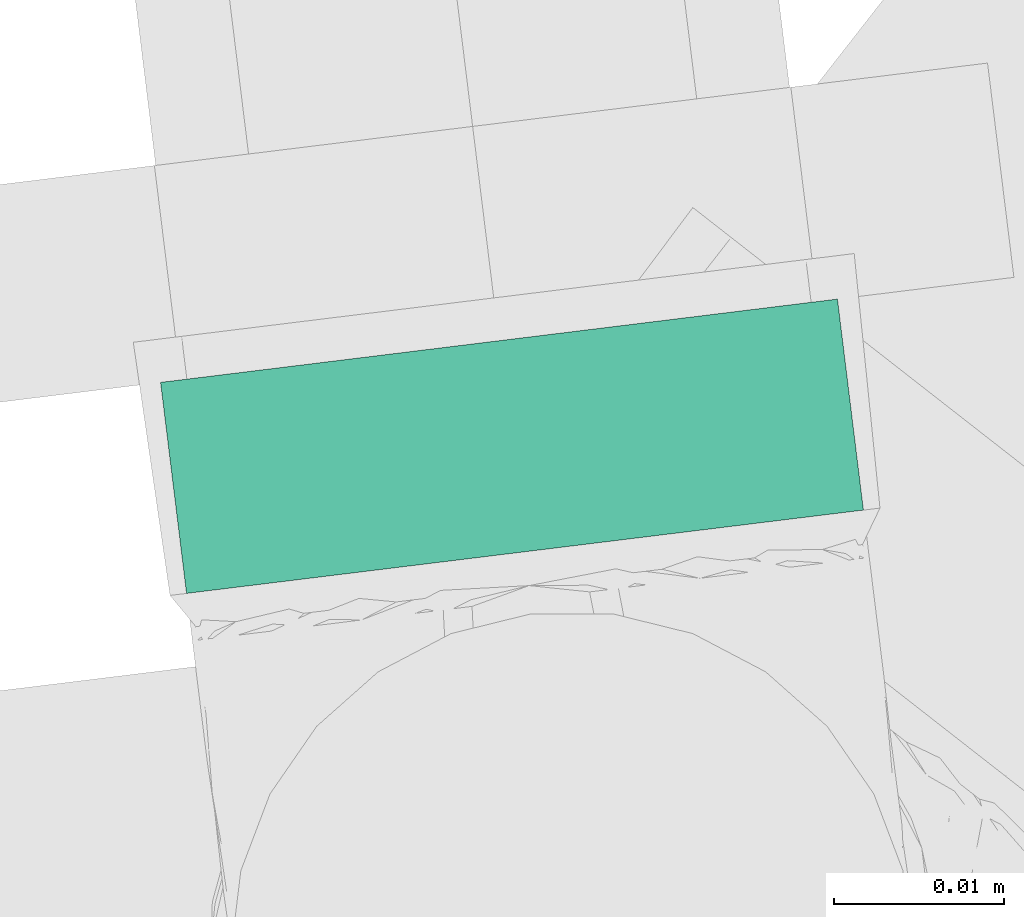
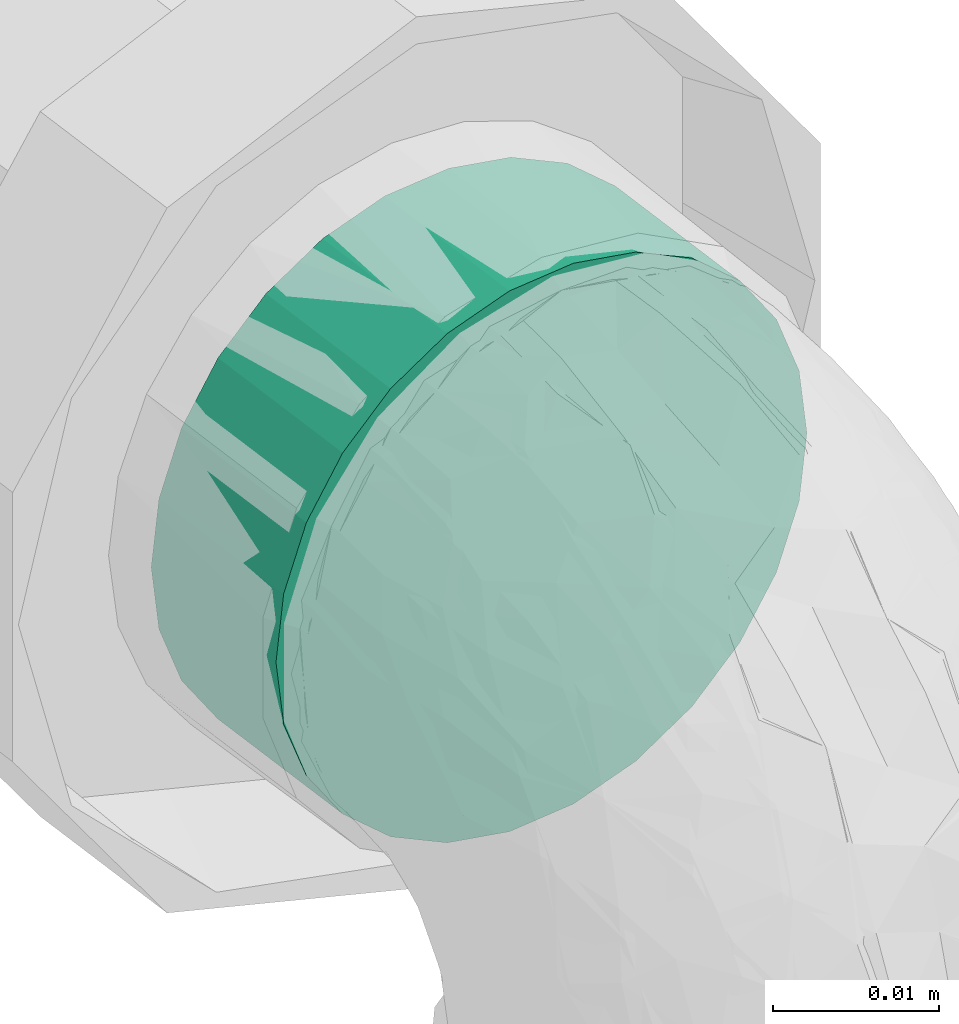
# One storey, part 85 of 97: 1 flow segment.
"""IFC2X3 building model written with IfcOpenShell, lengths in centimetres."""

from ifc_helpers import new_model, entity, si_unit, converted_unit, derived_unit, direction, frame, origin, origin_2d_with_axis, place, context, subcontext, project, spatial, circle, extrude, type_object, element, save


model = new_model("IFC2X3")

# Units and contexts
model_context = context("Model", 3, precision=0.001, world=origin(), true_north=direction((6.12303176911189e-17, 1.0)))
body_context = subcontext(model_context, "Body", "Model", "MODEL_VIEW")
ifc_project = project(units=[si_unit("LENGTHUNIT", "METRE", prefix="CENTI"), si_unit("AREAUNIT", "SQUARE_METRE"), si_unit("VOLUMEUNIT", "CUBIC_METRE"), converted_unit("PLANEANGLEUNIT", "DEGREE", entity("IfcRatioMeasure", 0.0174532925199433), si_unit("PLANEANGLEUNIT", "RADIAN"), dimensions=[0, 0, 0, 0, 0, 0, 0]), si_unit("MASSUNIT", "GRAM", prefix="KILO"), derived_unit("MASSDENSITYUNIT", [(si_unit("MASSUNIT", "GRAM", prefix="KILO"), 1), (si_unit("LENGTHUNIT", "METRE"), -3)]), derived_unit("MOMENTOFINERTIAUNIT", [(si_unit("LENGTHUNIT", "METRE"), 4)]), si_unit("TIMEUNIT", "SECOND"), si_unit("FREQUENCYUNIT", "HERTZ"), si_unit("THERMODYNAMICTEMPERATUREUNIT", "DEGREE_CELSIUS"), derived_unit("THERMALTRANSMITTANCEUNIT", [(si_unit("MASSUNIT", "GRAM", prefix="KILO"), 1), (si_unit("THERMODYNAMICTEMPERATUREUNIT", "KELVIN"), -1), (si_unit("TIMEUNIT", "SECOND"), -3)]), derived_unit("VOLUMETRICFLOWRATEUNIT", [(si_unit("LENGTHUNIT", "METRE"), 3), (si_unit("TIMEUNIT", "SECOND"), -1)]), si_unit("ELECTRICCURRENTUNIT", "AMPERE"), si_unit("ELECTRICVOLTAGEUNIT", "VOLT"), si_unit("POWERUNIT", "WATT"), si_unit("FORCEUNIT", "NEWTON", prefix="KILO"), si_unit("ILLUMINANCEUNIT", "LUX"), si_unit("LUMINOUSFLUXUNIT", "LUMEN"), si_unit("LUMINOUSINTENSITYUNIT", "CANDELA"), derived_unit("USERDEFINED", [(si_unit("MASSUNIT", "GRAM", prefix="KILO"), -1), (si_unit("LENGTHUNIT", "METRE"), -2), (si_unit("TIMEUNIT", "SECOND"), 3), (si_unit("LUMINOUSFLUXUNIT", "LUMEN"), 1)]), derived_unit("LINEARVELOCITYUNIT", [(si_unit("LENGTHUNIT", "METRE"), 1), (si_unit("TIMEUNIT", "SECOND"), -1)]), si_unit("PRESSUREUNIT", "PASCAL"), derived_unit("USERDEFINED", [(si_unit("LENGTHUNIT", "METRE"), -2), (si_unit("MASSUNIT", "GRAM", prefix="KILO"), 1), (si_unit("TIMEUNIT", "SECOND"), -2)]), derived_unit("LINEARFORCEUNIT", [(si_unit("MASSUNIT", "GRAM", prefix="KILO"), 1), (si_unit("LENGTHUNIT", "METRE"), 1), (si_unit("TIMEUNIT", "SECOND"), -2), (si_unit("LENGTHUNIT", "METRE"), -1)]), derived_unit("PLANARFORCEUNIT", [(si_unit("MASSUNIT", "GRAM", prefix="KILO"), 1), (si_unit("LENGTHUNIT", "METRE"), 1), (si_unit("TIMEUNIT", "SECOND"), -2), (si_unit("LENGTHUNIT", "METRE"), -2)])], contexts=[model_context])

# Site, building, storey
site_placement = place(None, origin())
site = spatial("IfcSite", under=ifc_project, at=site_placement, Name="Default", CompositionType="ELEMENT")
building_placement = place(site_placement, origin())
building = spatial("IfcBuilding", under=site, at=building_placement, Name="HIDROSSANITÁRIO", CompositionType="ELEMENT")
storey_placement = place(building_placement, frame((0.0, 0.0, -260.0)))
storey = spatial("IfcBuildingStorey", under=building, at=storey_placement, Name="TÉRREO-HID", CompositionType="ELEMENT", Elevation=-260.0)

# Flow segment
pipe_segment_type = type_object("IfcPipeSegmentType", Name="Tipos de tubos:Tubo - Esgoto - Série Normal", PredefinedType="NOTDEFINED")
flow_segment_placement = place(storey_placement, origin())
element("IfcFlowSegment", 1, at=flow_segment_placement, inside=storey, type_object=pipe_segment_type, Name="Tipos de tubos:Tubo - Esgoto - Série Normal", ObjectType="Tipos de tubos:Tubo - Esgoto - Série Normal", context=body_context, shape_type="SweptSolid", body=[
    extrude(circle(Radius=2.0, at=origin_2d_with_axis()), frame((-1700.60242557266, 3149.52353914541, 50.0), z_axis=(0.122152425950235, -0.99251135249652, 0.0), x_axis=(-0.99251135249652, -0.122152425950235, 0.0)), (0.0, 0.0, 1.0), 1.24704451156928),
])

save(model, "model.ifc")
